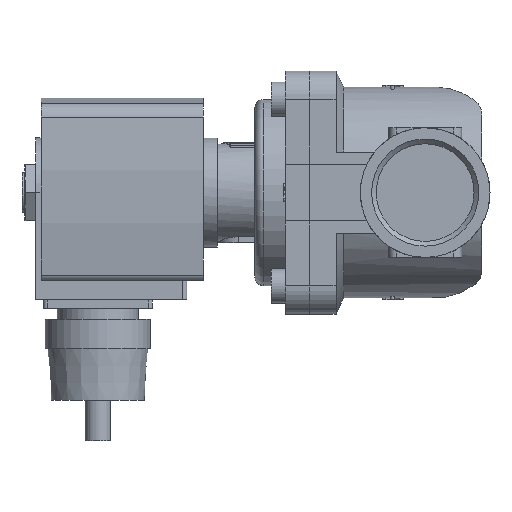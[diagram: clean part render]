
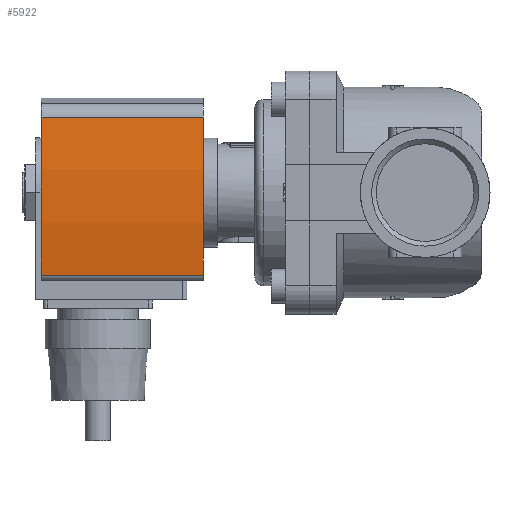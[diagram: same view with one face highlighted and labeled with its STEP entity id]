
A CAD part, left-side view. The second image highlights one B-rep face of the part: STEP entity #5922.
In plain terms, the highlighted cylindrical face has radius 130 mm (diameter 260 mm), a partial arc.
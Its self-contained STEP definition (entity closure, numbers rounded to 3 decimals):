
#234=CYLINDRICAL_SURFACE('',#6448,130.);
#622=LINE('',#9568,#1030);
#623=LINE('',#9572,#1031);
#1030=VECTOR('',#7830,1000.);
#1031=VECTOR('',#7835,1000.);
#2322=ORIENTED_EDGE('',*,*,#3154,.T.);
#2323=ORIENTED_EDGE('',*,*,#3155,.F.);
#2324=ORIENTED_EDGE('',*,*,#3143,.F.);
#2325=ORIENTED_EDGE('',*,*,#3153,.T.);
#3143=EDGE_CURVE('',#3662,#3663,#3886,.T.);
#3153=EDGE_CURVE('',#3662,#3669,#622,.T.);
#3154=EDGE_CURVE('',#3669,#3670,#3894,.T.);
#3155=EDGE_CURVE('',#3663,#3670,#623,.T.);
#3662=VERTEX_POINT('',#9548);
#3663=VERTEX_POINT('',#9550);
#3669=VERTEX_POINT('',#9567);
#3670=VERTEX_POINT('',#9571);
#3886=CIRCLE('',#6438,130.);
#3894=CIRCLE('',#6449,130.);
#4206=EDGE_LOOP('',(#2322,#2323,#2324,#2325));
#4544=FACE_BOUND('',#4206,.T.);
#5922=ADVANCED_FACE('',(#4544),#234,.T.);
#6438=AXIS2_PLACEMENT_3D('',#9549,#7808,#7809);
#6448=AXIS2_PLACEMENT_3D('',#9569,#7831,#7832);
#6449=AXIS2_PLACEMENT_3D('',#9570,#7833,#7834);
#7808=DIRECTION('',(0.,1.,0.));
#7809=DIRECTION('',(1.,0.,0.));
#7830=DIRECTION('',(0.,-1.,0.));
#7831=DIRECTION('',(0.,-1.,0.));
#7832=DIRECTION('',(0.,0.,-1.));
#7833=DIRECTION('',(0.,1.,0.));
#7834=DIRECTION('',(1.,0.,0.));
#7835=DIRECTION('',(0.,-1.,0.));
#9548=CARTESIAN_POINT('',(-20.382,14.,18.392));
#9549=CARTESIAN_POINT('',(0.,14.,-110.));
#9550=CARTESIAN_POINT('',(18.639,14.,18.657));
#9567=CARTESIAN_POINT('',(-20.382,-26.,18.392));
#9568=CARTESIAN_POINT('',(-20.382,14.,18.392));
#9569=CARTESIAN_POINT('',(0.,14.,-110.));
#9570=CARTESIAN_POINT('',(0.,-26.,-110.));
#9571=CARTESIAN_POINT('',(18.639,-26.,18.657));
#9572=CARTESIAN_POINT('',(18.639,14.,18.657));
